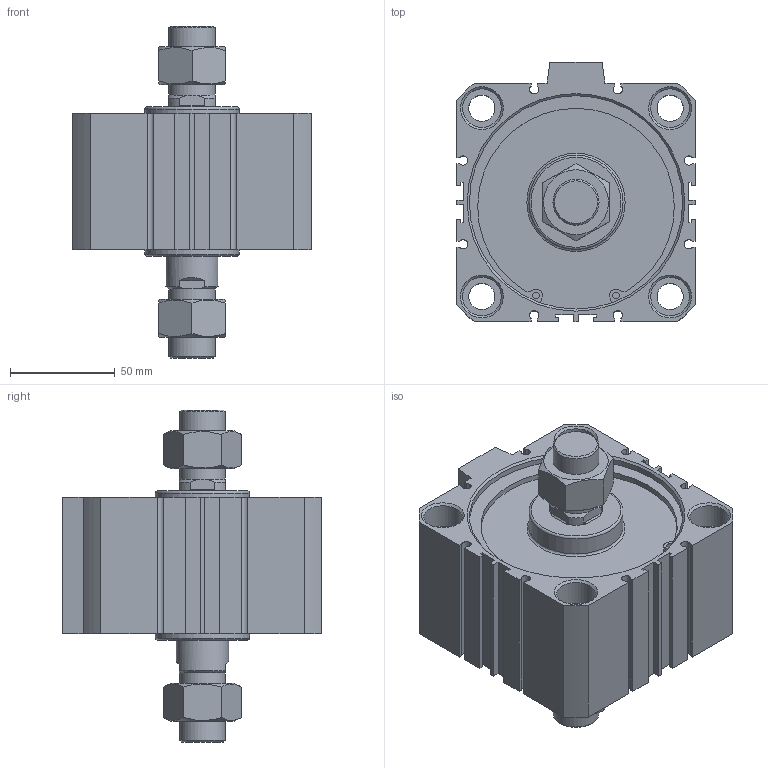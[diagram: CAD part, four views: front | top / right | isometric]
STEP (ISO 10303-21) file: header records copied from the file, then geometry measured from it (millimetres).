
FILE_DESCRIPTION((''),'2;1');
FILE_NAME('I:\3D電子目錄\氣缸\JDD\JDD-BS\JDD100-BS\JDD100x10-BS.stp','2007-02-28T08:49:08',('662F206'),(''),'Autodesk Inventor 10','Autodesk Inventor 10','');
FILE_SCHEMA(('AUTOMOTIVE_DESIGN { 1 0 10303 214 1 1 1 1 }'));
Length unit declared in the file: millimetre
Products named in the file (3): JDD100-BS; R 形環 100
Assembly tree (3 placements, depth 2):
  JDD100-BS
    JDD100-BS
    R 形環 100  x2
Bounding box: 114 x 124 x 158.7 mm (x, y, z)
Volume: 750678.4 mm3; surface area: 106824.5 mm2
Topology: 3 solids, 3 shells, 219 faces, 538 edges, 351 vertices
Faces by surface type: plane 130, cylinder 59, cone 26, bspline 2, torus 2
Full cylindrical faces by diameter (mm): 3.1 x4, 3.5 x2, 12.5 x4, 18.5 x8, 22 x4, 25 x1, 45 x2, 102 x4, 106 x2
Entity records: 5905 total; most frequent: CARTESIAN_POINT 1143, DIRECTION 978, ORIENTED_EDGE 894, EDGE_CURVE 447, AXIS2_PLACEMENT_3D 356, VERTEX_POINT 323, EDGE_LOOP 298, VECTOR 266
